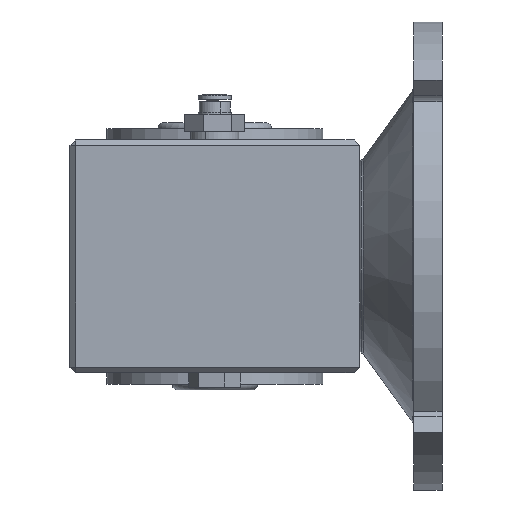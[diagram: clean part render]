
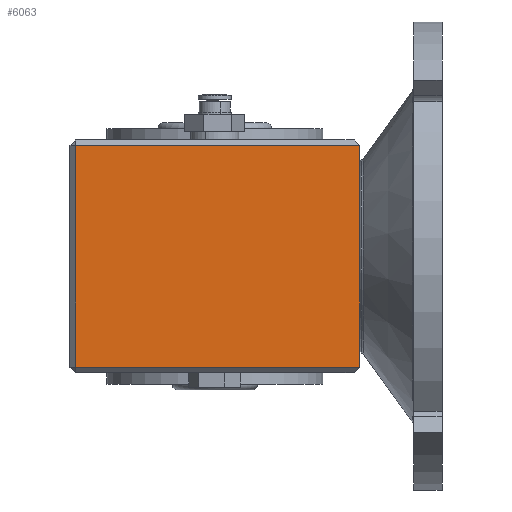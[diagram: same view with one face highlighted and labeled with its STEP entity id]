
A CAD part, front view. The second image highlights one B-rep face of the part: STEP entity #6063.
In plain terms, the highlighted planar face has unit normal (0, -1, 0).
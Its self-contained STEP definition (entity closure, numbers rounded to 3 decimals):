
#2293 = VECTOR ( 'NONE', #3128, 1000. ) ;
#2345 = VECTOR ( 'NONE', #3228, 1000. ) ;
#2429 = VERTEX_POINT ( 'NONE', #8300 ) ;
#2507 = VERTEX_POINT ( 'NONE', #8199 ) ;
#2522 = VERTEX_POINT ( 'NONE', #8181 ) ;
#2630 = VECTOR ( 'NONE', #3268, 1000. ) ;
#2637 = VECTOR ( 'NONE', #3277, 1000. ) ;
#3043 = AXIS2_PLACEMENT_3D ( 'NONE', #3505, #3504, #3503 ) ;
#3128 = DIRECTION ( 'NONE',  ( -1., 0., 0. ) ) ;
#3129 = CARTESIAN_POINT ( 'NONE',  ( -133.028, 12.382, -44.791 ) ) ;
#3228 = DIRECTION ( 'NONE',  ( 0., 0., -1. ) ) ;
#3229 = CARTESIAN_POINT ( 'NONE',  ( -31.028, 12.382, -42.791 ) ) ;
#3268 = DIRECTION ( 'NONE',  ( 1., 0., 0. ) ) ;
#3269 = CARTESIAN_POINT ( 'NONE',  ( -133.028, 12.382, -122.791 ) ) ;
#3277 = DIRECTION ( 'NONE',  ( 0., 0., -1. ) ) ;
#3278 = CARTESIAN_POINT ( 'NONE',  ( -131.028, 12.382, -42.791 ) ) ;
#3503 = DIRECTION ( 'NONE',  ( 0., 0., 1. ) ) ;
#3504 = DIRECTION ( 'NONE',  ( 0., 1., 0. ) ) ;
#3505 = CARTESIAN_POINT ( 'NONE',  ( -133.028, 12.382, -42.791 ) ) ;
#3506 = PLANE ( 'NONE',  #3043 ) ;
#6063 = ADVANCED_FACE ( 'NONE', ( #6898 ), #3506, .F. ) ;
#6231 = EDGE_LOOP ( 'NONE', ( #7501, #7336, #7265, #7430 ) ) ;
#6898 = FACE_OUTER_BOUND ( 'NONE', #6231, .T. ) ;
#7002 = LINE ( 'NONE', #3278, #2637 ) ;
#7005 = LINE ( 'NONE', #3269, #2630 ) ;
#7012 = LINE ( 'NONE', #3229, #2345 ) ;
#7028 = LINE ( 'NONE', #3129, #2293 ) ;
#7265 = ORIENTED_EDGE ( 'NONE', *, *, #8506, .F. ) ;
#7336 = ORIENTED_EDGE ( 'NONE', *, *, #8493, .T. ) ;
#7430 = ORIENTED_EDGE ( 'NONE', *, *, #8537, .T. ) ;
#7501 = ORIENTED_EDGE ( 'NONE', *, *, #8490, .T. ) ;
#8181 = CARTESIAN_POINT ( 'NONE',  ( -31.028, 12.382, -122.791 ) ) ;
#8199 = CARTESIAN_POINT ( 'NONE',  ( -31.028, 12.382, -44.791 ) ) ;
#8300 = CARTESIAN_POINT ( 'NONE',  ( -131.028, 12.382, -44.791 ) ) ;
#8490 = EDGE_CURVE ( 'NONE', #2429, #8701, #7002, .T. ) ;
#8493 = EDGE_CURVE ( 'NONE', #8701, #2522, #7005, .T. ) ;
#8506 = EDGE_CURVE ( 'NONE', #2507, #2522, #7012, .T. ) ;
#8537 = EDGE_CURVE ( 'NONE', #2507, #2429, #7028, .T. ) ;
#8701 = VERTEX_POINT ( 'NONE', #9699 ) ;
#9699 = CARTESIAN_POINT ( 'NONE',  ( -131.028, 12.382, -122.791 ) ) ;
